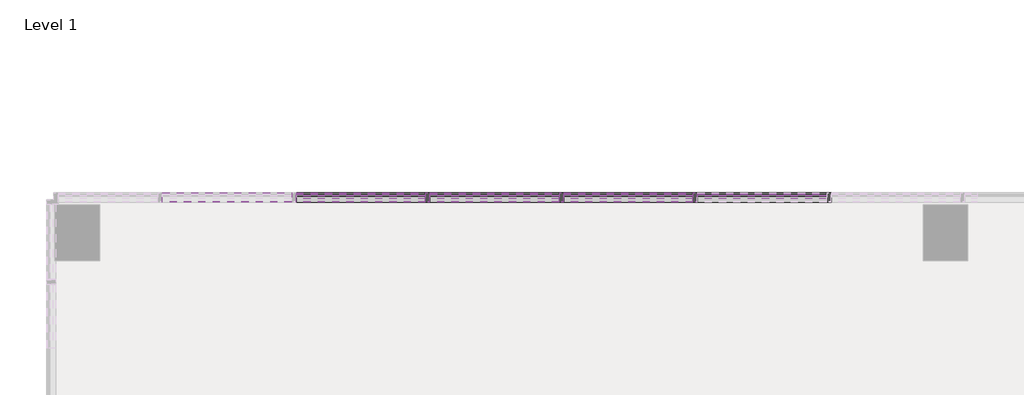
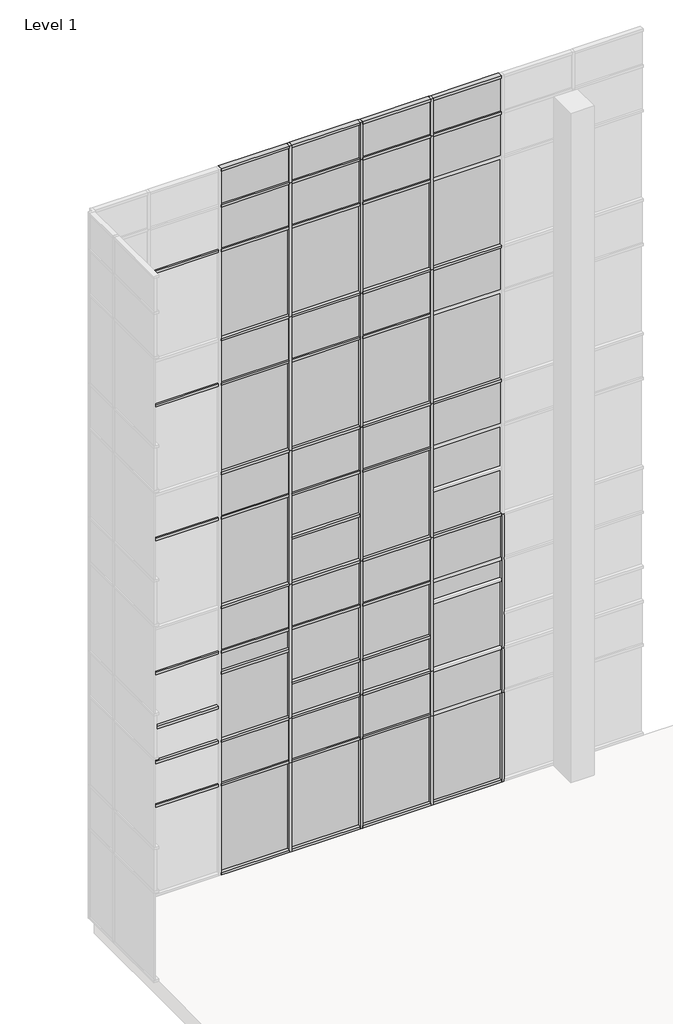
# One storey, part 11 of 23: 77 members, 50 plates.
"""IFC4 building model written with IfcOpenShell, lengths in millimetres."""

from ifc_helpers import new_model, si_unit, origin, place, context, project, spatial, transform, mapped, element, save
from components import member_2b49869a, member_f92b8aa2, member_810865a4, member_f0fea5a5, member_6d5c3e5e, member_9764dd38, system_panel_glazed_14c75400, system_panel_glazed_7d142148, system_panel_glazed_725bf07f, system_panel_glazed_8331d6f5, system_panel_glazed_33b17147, system_panel_glazed_3ed5c639, system_panel_glazed_f9823347, system_panel_solid_5dfe6f83, system_panel_solid_e25e2004, system_panel_solid_b7551183

model = new_model("IFC4")

# Units and contexts
model_context = context("Model", 3, world=origin())
ifc_project = project(units=[si_unit("LENGTHUNIT", "METRE", prefix="MILLI")], contexts=[model_context])

# Site, building, storey
site = spatial("IfcSite", under=ifc_project)
building = spatial("IfcBuilding", under=site)
storey = spatial("IfcBuildingStorey", under=building, Name="Level 1", Elevation=0.0)

# Members
placement = place(None, origin())
member_shape = member_2b49869a(model_context)
element("IfcMember", 1, ObjectType="Rectangular Mullion : 2.5\" x 5\" rectangular", at=placement, inside=storey, context=model_context, shape_type="MappedRepresentation", body=[
    mapped(member_shape, transform((-59919.4623649, 10017.7896508, 2438.4), x_axis=(1.0, 0.0, 0.0), y_axis=(0.0, -1.0, 0.0), z_axis=(0.0, 0.0, -1.0))),
])
element("IfcMember", 2, ObjectType="Rectangular Mullion : 2.5\" x 5\" rectangular", at=placement, inside=storey, context=model_context, shape_type="MappedRepresentation", body=[
    mapped(member_shape, transform((-61748.2623649, 10017.7896508, 2438.4), x_axis=(1.0, 0.0, 0.0), y_axis=(0.0, -1.0, 0.0), z_axis=(0.0, 0.0, -1.0))),
])
element("IfcMember", 3, ObjectType="Rectangular Mullion : 2.5\" x 5\" rectangular", at=placement, inside=storey, context=model_context, shape_type="MappedRepresentation", body=[
    mapped(member_shape, transform((-63577.0623649, 10017.7896508, 2438.4), x_axis=(1.0, 0.0, 0.0), y_axis=(0.0, -1.0, 0.0), z_axis=(0.0, 0.0, -1.0))),
])
element("IfcMember", 4, ObjectType="Rectangular Mullion : 2.5\" x 5\" rectangular", at=placement, inside=storey, context=model_context, shape_type="MappedRepresentation", body=[
    mapped(member_shape, transform((-58090.6623649, 10017.7896508, 2438.4), x_axis=(1.0, 0.0, 0.0), y_axis=(0.0, -1.0, 0.0), z_axis=(0.0, 0.0, -1.0))),
])
member_2_shape = member_f92b8aa2(model_context)
element("IfcMember", 5, ObjectType="Rectangular Mullion : 2.5\" x 5\" rectangular", at=placement, inside=storey, context=model_context, shape_type="MappedRepresentation", body=[
    mapped(member_2_shape, transform((-59919.4623649, 10017.7896508, 18288.0), x_axis=(1.0, 0.0, 0.0), y_axis=(0.0, -1.0, 0.0), z_axis=(0.0, 0.0, -1.0))),
])
element("IfcMember", 6, ObjectType="Rectangular Mullion : 2.5\" x 5\" rectangular", at=placement, inside=storey, context=model_context, shape_type="MappedRepresentation", body=[
    mapped(member_2_shape, transform((-61748.2623649, 10017.7896508, 18288.0), x_axis=(1.0, 0.0, 0.0), y_axis=(0.0, -1.0, 0.0), z_axis=(0.0, 0.0, -1.0))),
])
element("IfcMember", 7, ObjectType="Rectangular Mullion : 2.5\" x 5\" rectangular", at=placement, inside=storey, context=model_context, shape_type="MappedRepresentation", body=[
    mapped(member_2_shape, transform((-63577.0623649, 10017.7896508, 18288.0), x_axis=(1.0, 0.0, 0.0), y_axis=(0.0, -1.0, 0.0), z_axis=(0.0, 0.0, -1.0))),
])
member_3_shape = member_810865a4(model_context)
element("IfcMember", 8, ObjectType="Rectangular Mullion : 2.5\" x 5\" rectangular", at=placement, inside=storey, context=model_context, shape_type="MappedRepresentation", body=[
    mapped(member_3_shape, transform((-58090.6623649, 10017.7896508, 3657.6), x_axis=(1.0, 0.0, 0.0), y_axis=(0.0, -1.0, 0.0), z_axis=(0.0, 0.0, -1.0))),
])
element("IfcMember", 9, ObjectType="Rectangular Mullion : 2.5\" x 5\" rectangular", at=placement, inside=storey, context=model_context, shape_type="MappedRepresentation", body=[
    mapped(member_3_shape, transform((-59919.4623649, 10017.7896508, 14630.4), x_axis=(1.0, 0.0, 0.0), y_axis=(0.0, -1.0, 0.0), z_axis=(0.0, 0.0, -1.0))),
])
element("IfcMember", 10, ObjectType="Rectangular Mullion : 2.5\" x 5\" rectangular", at=placement, inside=storey, context=model_context, shape_type="MappedRepresentation", body=[
    mapped(member_3_shape, transform((-59919.4623649, 10017.7896508, 10972.8), x_axis=(1.0, 0.0, 0.0), y_axis=(0.0, -1.0, 0.0), z_axis=(0.0, 0.0, -1.0))),
])
element("IfcMember", 11, ObjectType="Rectangular Mullion : 2.5\" x 5\" rectangular", at=placement, inside=storey, context=model_context, shape_type="MappedRepresentation", body=[
    mapped(member_3_shape, transform((-59919.4623649, 10017.7896508, 7315.2), x_axis=(1.0, 0.0, 0.0), y_axis=(0.0, -1.0, 0.0), z_axis=(0.0, 0.0, -1.0))),
])
element("IfcMember", 12, ObjectType="Rectangular Mullion : 2.5\" x 5\" rectangular", at=placement, inside=storey, context=model_context, shape_type="MappedRepresentation", body=[
    mapped(member_3_shape, transform((-59919.4623649, 10017.7896508, 3657.6), x_axis=(1.0, 0.0, 0.0), y_axis=(0.0, -1.0, 0.0), z_axis=(0.0, 0.0, -1.0))),
])
element("IfcMember", 13, ObjectType="Rectangular Mullion : 2.5\" x 5\" rectangular", at=placement, inside=storey, context=model_context, shape_type="MappedRepresentation", body=[
    mapped(member_3_shape, transform((-61748.2623649, 10017.7896508, 14630.4), x_axis=(1.0, 0.0, 0.0), y_axis=(0.0, -1.0, 0.0), z_axis=(0.0, 0.0, -1.0))),
])
element("IfcMember", 14, ObjectType="Rectangular Mullion : 2.5\" x 5\" rectangular", at=placement, inside=storey, context=model_context, shape_type="MappedRepresentation", body=[
    mapped(member_3_shape, transform((-61748.2623649, 10017.7896508, 10972.8), x_axis=(1.0, 0.0, 0.0), y_axis=(0.0, -1.0, 0.0), z_axis=(0.0, 0.0, -1.0))),
])
element("IfcMember", 15, ObjectType="Rectangular Mullion : 2.5\" x 5\" rectangular", at=placement, inside=storey, context=model_context, shape_type="MappedRepresentation", body=[
    mapped(member_3_shape, transform((-61748.2623649, 10017.7896508, 7315.2), x_axis=(1.0, 0.0, 0.0), y_axis=(0.0, -1.0, 0.0), z_axis=(0.0, 0.0, -1.0))),
])
element("IfcMember", 16, ObjectType="Rectangular Mullion : 2.5\" x 5\" rectangular", at=placement, inside=storey, context=model_context, shape_type="MappedRepresentation", body=[
    mapped(member_3_shape, transform((-61748.2623649, 10017.7896508, 3657.6), x_axis=(1.0, 0.0, 0.0), y_axis=(0.0, -1.0, 0.0), z_axis=(0.0, 0.0, -1.0))),
])
element("IfcMember", 17, ObjectType="Rectangular Mullion : 2.5\" x 5\" rectangular", at=placement, inside=storey, context=model_context, shape_type="MappedRepresentation", body=[
    mapped(member_3_shape, transform((-63577.0623649, 10017.7896508, 14630.4), x_axis=(1.0, 0.0, 0.0), y_axis=(0.0, -1.0, 0.0), z_axis=(0.0, 0.0, -1.0))),
])
element("IfcMember", 18, ObjectType="Rectangular Mullion : 2.5\" x 5\" rectangular", at=placement, inside=storey, context=model_context, shape_type="MappedRepresentation", body=[
    mapped(member_3_shape, transform((-63577.0623649, 10017.7896508, 10972.8), x_axis=(1.0, 0.0, 0.0), y_axis=(0.0, -1.0, 0.0), z_axis=(0.0, 0.0, -1.0))),
])
element("IfcMember", 19, ObjectType="Rectangular Mullion : 2.5\" x 5\" rectangular", at=placement, inside=storey, context=model_context, shape_type="MappedRepresentation", body=[
    mapped(member_3_shape, transform((-63577.0623649, 10017.7896508, 7315.2), x_axis=(1.0, 0.0, 0.0), y_axis=(0.0, -1.0, 0.0), z_axis=(0.0, 0.0, -1.0))),
])
element("IfcMember", 20, ObjectType="Rectangular Mullion : 2.5\" x 5\" rectangular", at=placement, inside=storey, context=model_context, shape_type="MappedRepresentation", body=[
    mapped(member_3_shape, transform((-63577.0623649, 10017.7896508, 3657.6), x_axis=(1.0, 0.0, 0.0), y_axis=(0.0, -1.0, 0.0), z_axis=(0.0, 0.0, -1.0))),
])
member_4_shape = member_f0fea5a5(model_context)
element("IfcMember", 21, ObjectType="Rectangular Mullion : 2.5\" x 5\" rectangular", at=placement, inside=storey, context=model_context, shape_type="MappedRepresentation", body=[
    mapped(member_4_shape, transform((-61748.2623649, 10017.7896508, 0.0), x_axis=(1.0, 0.0, 0.0), y_axis=(0.0, -1.0, 0.0), z_axis=(0.0, 0.0, -1.0))),
])
element("IfcMember", 22, ObjectType="Rectangular Mullion : 2.5\" x 5\" rectangular", at=placement, inside=storey, context=model_context, shape_type="MappedRepresentation", body=[
    mapped(member_4_shape, transform((-63577.0623649, 10017.7896508, 0.0), x_axis=(1.0, 0.0, 0.0), y_axis=(0.0, -1.0, 0.0), z_axis=(0.0, 0.0, -1.0))),
])
element("IfcMember", 23, ObjectType="Rectangular Mullion : 2.5\" x 5\" rectangular", at=placement, inside=storey, context=model_context, shape_type="MappedRepresentation", body=[
    mapped(member_4_shape, transform((-59919.4623649, 10017.7896508, 0.0), x_axis=(1.0, 0.0, 0.0), y_axis=(0.0, -1.0, 0.0), z_axis=(0.0, 0.0, -1.0))),
])
element("IfcMember", 24, ObjectType="Rectangular Mullion : 2.5\" x 5\" rectangular", at=placement, inside=storey, context=model_context, shape_type="MappedRepresentation", body=[
    mapped(member_4_shape, transform((-58090.6623649, 10017.7896508, 0.0), x_axis=(1.0, 0.0, 0.0), y_axis=(0.0, -1.0, 0.0), z_axis=(0.0, 0.0, -1.0))),
])
member_5_shape = member_6d5c3e5e(model_context)
element("IfcMember", 25, ObjectType="Rectangular Mullion : 2.5\" x 5\" rectangular", at=placement, inside=storey, context=model_context, shape_type="MappedRepresentation", body=[
    mapped(member_5_shape, transform((-58122.4123649, 10017.7896508, 19304.0), x_axis=(0.0, 0.0, 1.0), y_axis=(0.0, -1.0, 0.0), z_axis=(1.0, 0.0, 0.0))),
])
element("IfcMember", 26, ObjectType="Rectangular Mullion : 2.5\" x 5\" rectangular", at=placement, inside=storey, context=model_context, shape_type="MappedRepresentation", body=[
    mapped(member_5_shape, transform((-59951.2123649, 10017.7896508, 19304.0), x_axis=(0.0, 0.0, 1.0), y_axis=(0.0, -1.0, 0.0), z_axis=(1.0, 0.0, 0.0))),
])
element("IfcMember", 27, ObjectType="Rectangular Mullion : 2.5\" x 5\" rectangular", at=placement, inside=storey, context=model_context, shape_type="MappedRepresentation", body=[
    mapped(member_5_shape, transform((-61780.0123649, 10017.7896508, 19304.0), x_axis=(0.0, 0.0, 1.0), y_axis=(0.0, -1.0, 0.0), z_axis=(1.0, 0.0, 0.0))),
])
element("IfcMember", 28, ObjectType="Rectangular Mullion : 2.5\" x 5\" rectangular", at=placement, inside=storey, context=model_context, shape_type="MappedRepresentation", body=[
    mapped(member_5_shape, transform((-63608.8123649, 10017.7896508, 19304.0), x_axis=(0.0, 0.0, 1.0), y_axis=(0.0, -1.0, 0.0), z_axis=(1.0, 0.0, 0.0))),
])
member_6_shape = member_9764dd38(model_context)
element("IfcMember", 29, ObjectType="Rectangular Mullion : 2.5\" x 5\" rectangular", at=placement, inside=storey, context=model_context, shape_type="MappedRepresentation", body=[
    mapped(member_6_shape, transform((-59951.2123649, 10017.7896508, 17068.8), x_axis=(0.0, 0.0, 1.0), y_axis=(0.0, -1.0, 0.0), z_axis=(1.0, 0.0, 0.0))),
])
element("IfcMember", 30, ObjectType="Rectangular Mullion : 2.5\" x 5\" rectangular", at=placement, inside=storey, context=model_context, shape_type="MappedRepresentation", body=[
    mapped(member_6_shape, transform((-61780.0123649, 10017.7896508, 17068.8), x_axis=(0.0, 0.0, 1.0), y_axis=(0.0, -1.0, 0.0), z_axis=(1.0, 0.0, 0.0))),
])
element("IfcMember", 31, ObjectType="Rectangular Mullion : 2.5\" x 5\" rectangular", at=placement, inside=storey, context=model_context, shape_type="MappedRepresentation", body=[
    mapped(member_6_shape, transform((-63608.8123649, 10017.7896508, 17068.8), x_axis=(0.0, 0.0, 1.0), y_axis=(0.0, -1.0, 0.0), z_axis=(1.0, 0.0, 0.0))),
])
element("IfcMember", 32, ObjectType="Rectangular Mullion : 2.5\" x 5\" rectangular", at=placement, inside=storey, context=model_context, shape_type="MappedRepresentation", body=[
    mapped(member_6_shape, transform((-65437.6123649, 10017.7896508, 17068.8), x_axis=(0.0, 0.0, 1.0), y_axis=(0.0, -1.0, 0.0), z_axis=(1.0, 0.0, 0.0))),
])
element("IfcMember", 33, ObjectType="Rectangular Mullion : 2.5\" x 5\" rectangular", at=placement, inside=storey, context=model_context, shape_type="MappedRepresentation", body=[
    mapped(member_6_shape, transform((-59951.2123649, 10017.7896508, 13411.2), x_axis=(0.0, 0.0, 1.0), y_axis=(0.0, -1.0, 0.0), z_axis=(1.0, 0.0, 0.0))),
])
element("IfcMember", 34, ObjectType="Rectangular Mullion : 2.5\" x 5\" rectangular", at=placement, inside=storey, context=model_context, shape_type="MappedRepresentation", body=[
    mapped(member_6_shape, transform((-61780.0123649, 10017.7896508, 13411.2), x_axis=(0.0, 0.0, 1.0), y_axis=(0.0, -1.0, 0.0), z_axis=(1.0, 0.0, 0.0))),
])
element("IfcMember", 35, ObjectType="Rectangular Mullion : 2.5\" x 5\" rectangular", at=placement, inside=storey, context=model_context, shape_type="MappedRepresentation", body=[
    mapped(member_6_shape, transform((-63608.8123649, 10017.7896508, 13411.2), x_axis=(0.0, 0.0, 1.0), y_axis=(0.0, -1.0, 0.0), z_axis=(1.0, 0.0, 0.0))),
])
element("IfcMember", 36, ObjectType="Rectangular Mullion : 2.5\" x 5\" rectangular", at=placement, inside=storey, context=model_context, shape_type="MappedRepresentation", body=[
    mapped(member_6_shape, transform((-65437.6123649, 10017.7896508, 13411.2), x_axis=(0.0, 0.0, 1.0), y_axis=(0.0, -1.0, 0.0), z_axis=(1.0, 0.0, 0.0))),
])
element("IfcMember", 37, ObjectType="Rectangular Mullion : 2.5\" x 5\" rectangular", at=placement, inside=storey, context=model_context, shape_type="MappedRepresentation", body=[
    mapped(member_6_shape, transform((-59951.2123649, 10017.7896508, 9753.6), x_axis=(0.0, 0.0, 1.0), y_axis=(0.0, -1.0, 0.0), z_axis=(1.0, 0.0, 0.0))),
])
element("IfcMember", 38, ObjectType="Rectangular Mullion : 2.5\" x 5\" rectangular", at=placement, inside=storey, context=model_context, shape_type="MappedRepresentation", body=[
    mapped(member_6_shape, transform((-61780.0123649, 10017.7896508, 9753.6), x_axis=(0.0, 0.0, 1.0), y_axis=(0.0, -1.0, 0.0), z_axis=(1.0, 0.0, 0.0))),
])
element("IfcMember", 39, ObjectType="Rectangular Mullion : 2.5\" x 5\" rectangular", at=placement, inside=storey, context=model_context, shape_type="MappedRepresentation", body=[
    mapped(member_6_shape, transform((-63608.8123649, 10017.7896508, 9753.6), x_axis=(0.0, 0.0, 1.0), y_axis=(0.0, -1.0, 0.0), z_axis=(1.0, 0.0, 0.0))),
])
element("IfcMember", 40, ObjectType="Rectangular Mullion : 2.5\" x 5\" rectangular", at=placement, inside=storey, context=model_context, shape_type="MappedRepresentation", body=[
    mapped(member_6_shape, transform((-65437.6123649, 10017.7896508, 9753.6), x_axis=(0.0, 0.0, 1.0), y_axis=(0.0, -1.0, 0.0), z_axis=(1.0, 0.0, 0.0))),
])
element("IfcMember", 41, ObjectType="Rectangular Mullion : 2.5\" x 5\" rectangular", at=placement, inside=storey, context=model_context, shape_type="MappedRepresentation", body=[
    mapped(member_6_shape, transform((-59951.2123649, 10017.7896508, 6096.0), x_axis=(0.0, 0.0, 1.0), y_axis=(0.0, -1.0, 0.0), z_axis=(1.0, 0.0, 0.0))),
])
element("IfcMember", 42, ObjectType="Rectangular Mullion : 2.5\" x 5\" rectangular", at=placement, inside=storey, context=model_context, shape_type="MappedRepresentation", body=[
    mapped(member_6_shape, transform((-61780.0123649, 10017.7896508, 6096.0), x_axis=(0.0, 0.0, 1.0), y_axis=(0.0, -1.0, 0.0), z_axis=(1.0, 0.0, 0.0))),
])
element("IfcMember", 43, ObjectType="Rectangular Mullion : 2.5\" x 5\" rectangular", at=placement, inside=storey, context=model_context, shape_type="MappedRepresentation", body=[
    mapped(member_6_shape, transform((-63608.8123649, 10017.7896508, 6096.0), x_axis=(0.0, 0.0, 1.0), y_axis=(0.0, -1.0, 0.0), z_axis=(1.0, 0.0, 0.0))),
])
element("IfcMember", 44, ObjectType="Rectangular Mullion : 2.5\" x 5\" rectangular", at=placement, inside=storey, context=model_context, shape_type="MappedRepresentation", body=[
    mapped(member_6_shape, transform((-65437.6123649, 10017.7896508, 6096.0), x_axis=(0.0, 0.0, 1.0), y_axis=(0.0, -1.0, 0.0), z_axis=(1.0, 0.0, 0.0))),
])
element("IfcMember", 45, ObjectType="Rectangular Mullion : 2.5\" x 5\" rectangular", at=placement, inside=storey, context=model_context, shape_type="MappedRepresentation", body=[
    mapped(member_6_shape, transform((-59951.2123649, 10017.7896508, 2470.15), x_axis=(0.0, 0.0, 1.0), y_axis=(0.0, -1.0, 0.0), z_axis=(1.0, 0.0, 0.0))),
])
element("IfcMember", 46, ObjectType="Rectangular Mullion : 2.5\" x 5\" rectangular", at=placement, inside=storey, context=model_context, shape_type="MappedRepresentation", body=[
    mapped(member_6_shape, transform((-61780.0123649, 10017.7896508, 2470.15), x_axis=(0.0, 0.0, 1.0), y_axis=(0.0, -1.0, 0.0), z_axis=(1.0, 0.0, 0.0))),
])
element("IfcMember", 47, ObjectType="Rectangular Mullion : 2.5\" x 5\" rectangular", at=placement, inside=storey, context=model_context, shape_type="MappedRepresentation", body=[
    mapped(member_6_shape, transform((-63608.8123649, 10017.7896508, 2470.15), x_axis=(0.0, 0.0, 1.0), y_axis=(0.0, -1.0, 0.0), z_axis=(1.0, 0.0, 0.0))),
])
element("IfcMember", 48, ObjectType="Rectangular Mullion : 2.5\" x 5\" rectangular", at=placement, inside=storey, context=model_context, shape_type="MappedRepresentation", body=[
    mapped(member_6_shape, transform((-65437.6123649, 10017.7896508, 2470.15), x_axis=(0.0, 0.0, 1.0), y_axis=(0.0, -1.0, 0.0), z_axis=(1.0, 0.0, 0.0))),
])
element("IfcMember", 49, ObjectType="Rectangular Mullion : 2.5\" x 5\" rectangular", at=placement, inside=storey, context=model_context, shape_type="MappedRepresentation", body=[
    mapped(member_6_shape, transform((-65437.6123649, 10017.7896508, 4603.75), x_axis=(0.0, 0.0, 1.0), y_axis=(0.0, -1.0, 0.0), z_axis=(1.0, 0.0, 0.0))),
])
element("IfcMember", 50, ObjectType="Rectangular Mullion : 2.5\" x 5\" rectangular", at=placement, inside=storey, context=model_context, shape_type="MappedRepresentation", body=[
    mapped(member_6_shape, transform((-61780.0123649, 10017.7896508, 4603.75), x_axis=(0.0, 0.0, 1.0), y_axis=(0.0, -1.0, 0.0), z_axis=(1.0, 0.0, 0.0))),
])
element("IfcMember", 51, ObjectType="Rectangular Mullion : 2.5\" x 5\" rectangular", at=placement, inside=storey, context=model_context, shape_type="MappedRepresentation", body=[
    mapped(member_6_shape, transform((-63608.8123649, 10017.7896508, 5518.15), x_axis=(0.0, 0.0, 1.0), y_axis=(0.0, -1.0, 0.0), z_axis=(1.0, 0.0, 0.0))),
])
element("IfcMember", 52, ObjectType="Rectangular Mullion : 2.5\" x 5\" rectangular", at=placement, inside=storey, context=model_context, shape_type="MappedRepresentation", body=[
    mapped(member_6_shape, transform((-61780.0123649, 10017.7896508, 8566.15), x_axis=(0.0, 0.0, 1.0), y_axis=(0.0, -1.0, 0.0), z_axis=(1.0, 0.0, 0.0))),
])
element("IfcMember", 53, ObjectType="Rectangular Mullion : 2.5\" x 5\" rectangular", at=placement, inside=storey, context=model_context, shape_type="MappedRepresentation", body=[
    mapped(member_6_shape, transform((-59951.2123649, 10017.7896508, 4603.75), x_axis=(0.0, 0.0, 1.0), y_axis=(0.0, -1.0, 0.0), z_axis=(1.0, 0.0, 0.0))),
])
element("IfcMember", 54, ObjectType="Rectangular Mullion : 2.5\" x 5\" rectangular", at=placement, inside=storey, context=model_context, shape_type="MappedRepresentation", body=[
    mapped(member_5_shape, transform((-59887.7123649, 10017.7896508, 0.0), x_axis=(0.0, 0.0, -1.0), y_axis=(0.0, -1.0, 0.0), z_axis=(-1.0, 0.0, 0.0))),
])
element("IfcMember", 55, ObjectType="Rectangular Mullion : 2.5\" x 5\" rectangular", at=placement, inside=storey, context=model_context, shape_type="MappedRepresentation", body=[
    mapped(member_5_shape, transform((-61716.5123649, 10017.7896508, 0.0), x_axis=(0.0, 0.0, -1.0), y_axis=(0.0, -1.0, 0.0), z_axis=(-1.0, 0.0, 0.0))),
])
element("IfcMember", 56, ObjectType="Rectangular Mullion : 2.5\" x 5\" rectangular", at=placement, inside=storey, context=model_context, shape_type="MappedRepresentation", body=[
    mapped(member_5_shape, transform((-63545.3123649, 10017.7896508, 0.0), x_axis=(0.0, 0.0, -1.0), y_axis=(0.0, -1.0, 0.0), z_axis=(-1.0, 0.0, 0.0))),
])
element("IfcMember", 57, ObjectType="Rectangular Mullion : 2.5\" x 5\" rectangular", at=placement, inside=storey, context=model_context, shape_type="MappedRepresentation", body=[
    mapped(member_5_shape, transform((-65374.1123649, 10017.7896508, 0.0), x_axis=(0.0, 0.0, -1.0), y_axis=(0.0, -1.0, 0.0), z_axis=(-1.0, 0.0, 0.0))),
])
element("IfcMember", 58, ObjectType="Rectangular Mullion : 2.5\" x 5\" rectangular", at=placement, inside=storey, context=model_context, shape_type="MappedRepresentation", body=[
    mapped(member_6_shape, transform((-58122.4123649, 10017.7896508, 10972.8), x_axis=(0.0, 0.0, 1.0), y_axis=(0.0, -1.0, 0.0), z_axis=(1.0, 0.0, 0.0))),
])
element("IfcMember", 59, ObjectType="Rectangular Mullion : 2.5\" x 5\" rectangular", at=placement, inside=storey, context=model_context, shape_type="MappedRepresentation", body=[
    mapped(member_6_shape, transform((-59951.2123649, 10017.7896508, 10972.8), x_axis=(0.0, 0.0, 1.0), y_axis=(0.0, -1.0, 0.0), z_axis=(1.0, 0.0, 0.0))),
])
element("IfcMember", 60, ObjectType="Rectangular Mullion : 2.5\" x 5\" rectangular", at=placement, inside=storey, context=model_context, shape_type="MappedRepresentation", body=[
    mapped(member_6_shape, transform((-61780.0123649, 10017.7896508, 10972.8), x_axis=(0.0, 0.0, 1.0), y_axis=(0.0, -1.0, 0.0), z_axis=(1.0, 0.0, 0.0))),
])
element("IfcMember", 61, ObjectType="Rectangular Mullion : 2.5\" x 5\" rectangular", at=placement, inside=storey, context=model_context, shape_type="MappedRepresentation", body=[
    mapped(member_6_shape, transform((-63608.8123649, 10017.7896508, 10972.8), x_axis=(0.0, 0.0, 1.0), y_axis=(0.0, -1.0, 0.0), z_axis=(1.0, 0.0, 0.0))),
])
element("IfcMember", 62, ObjectType="Rectangular Mullion : 2.5\" x 5\" rectangular", at=placement, inside=storey, context=model_context, shape_type="MappedRepresentation", body=[
    mapped(member_6_shape, transform((-58122.4123649, 10017.7896508, 7315.2), x_axis=(0.0, 0.0, 1.0), y_axis=(0.0, -1.0, 0.0), z_axis=(1.0, 0.0, 0.0))),
])
element("IfcMember", 63, ObjectType="Rectangular Mullion : 2.5\" x 5\" rectangular", at=placement, inside=storey, context=model_context, shape_type="MappedRepresentation", body=[
    mapped(member_6_shape, transform((-59951.2123649, 10017.7896508, 7315.2), x_axis=(0.0, 0.0, 1.0), y_axis=(0.0, -1.0, 0.0), z_axis=(1.0, 0.0, 0.0))),
])
element("IfcMember", 64, ObjectType="Rectangular Mullion : 2.5\" x 5\" rectangular", at=placement, inside=storey, context=model_context, shape_type="MappedRepresentation", body=[
    mapped(member_6_shape, transform((-61780.0123649, 10017.7896508, 7315.2), x_axis=(0.0, 0.0, 1.0), y_axis=(0.0, -1.0, 0.0), z_axis=(1.0, 0.0, 0.0))),
])
element("IfcMember", 65, ObjectType="Rectangular Mullion : 2.5\" x 5\" rectangular", at=placement, inside=storey, context=model_context, shape_type="MappedRepresentation", body=[
    mapped(member_6_shape, transform((-63608.8123649, 10017.7896508, 7315.2), x_axis=(0.0, 0.0, 1.0), y_axis=(0.0, -1.0, 0.0), z_axis=(1.0, 0.0, 0.0))),
])
element("IfcMember", 66, ObjectType="Rectangular Mullion : 2.5\" x 5\" rectangular", at=placement, inside=storey, context=model_context, shape_type="MappedRepresentation", body=[
    mapped(member_6_shape, transform((-59951.2123649, 10017.7896508, 18288.0), x_axis=(0.0, 0.0, 1.0), y_axis=(0.0, -1.0, 0.0), z_axis=(1.0, 0.0, 0.0))),
])
element("IfcMember", 67, ObjectType="Rectangular Mullion : 2.5\" x 5\" rectangular", at=placement, inside=storey, context=model_context, shape_type="MappedRepresentation", body=[
    mapped(member_6_shape, transform((-61780.0123649, 10017.7896508, 18288.0), x_axis=(0.0, 0.0, 1.0), y_axis=(0.0, -1.0, 0.0), z_axis=(1.0, 0.0, 0.0))),
])
element("IfcMember", 68, ObjectType="Rectangular Mullion : 2.5\" x 5\" rectangular", at=placement, inside=storey, context=model_context, shape_type="MappedRepresentation", body=[
    mapped(member_6_shape, transform((-63608.8123649, 10017.7896508, 18288.0), x_axis=(0.0, 0.0, 1.0), y_axis=(0.0, -1.0, 0.0), z_axis=(1.0, 0.0, 0.0))),
])
element("IfcMember", 69, ObjectType="Rectangular Mullion : 2.5\" x 5\" rectangular", at=placement, inside=storey, context=model_context, shape_type="MappedRepresentation", body=[
    mapped(member_6_shape, transform((-58122.4123649, 10017.7896508, 18288.0), x_axis=(0.0, 0.0, 1.0), y_axis=(0.0, -1.0, 0.0), z_axis=(1.0, 0.0, 0.0))),
])
element("IfcMember", 70, ObjectType="Rectangular Mullion : 2.5\" x 5\" rectangular", at=placement, inside=storey, context=model_context, shape_type="MappedRepresentation", body=[
    mapped(member_6_shape, transform((-58122.4123649, 10017.7896508, 14630.4), x_axis=(0.0, 0.0, 1.0), y_axis=(0.0, -1.0, 0.0), z_axis=(1.0, 0.0, 0.0))),
])
element("IfcMember", 71, ObjectType="Rectangular Mullion : 2.5\" x 5\" rectangular", at=placement, inside=storey, context=model_context, shape_type="MappedRepresentation", body=[
    mapped(member_6_shape, transform((-59951.2123649, 10017.7896508, 14630.4), x_axis=(0.0, 0.0, 1.0), y_axis=(0.0, -1.0, 0.0), z_axis=(1.0, 0.0, 0.0))),
])
element("IfcMember", 72, ObjectType="Rectangular Mullion : 2.5\" x 5\" rectangular", at=placement, inside=storey, context=model_context, shape_type="MappedRepresentation", body=[
    mapped(member_6_shape, transform((-61780.0123649, 10017.7896508, 14630.4), x_axis=(0.0, 0.0, 1.0), y_axis=(0.0, -1.0, 0.0), z_axis=(1.0, 0.0, 0.0))),
])
element("IfcMember", 73, ObjectType="Rectangular Mullion : 2.5\" x 5\" rectangular", at=placement, inside=storey, context=model_context, shape_type="MappedRepresentation", body=[
    mapped(member_6_shape, transform((-63608.8123649, 10017.7896508, 14630.4), x_axis=(0.0, 0.0, 1.0), y_axis=(0.0, -1.0, 0.0), z_axis=(1.0, 0.0, 0.0))),
])
element("IfcMember", 74, ObjectType="Rectangular Mullion : 2.5\" x 5\" rectangular", at=placement, inside=storey, context=model_context, shape_type="MappedRepresentation", body=[
    mapped(member_6_shape, transform((-65437.6123649, 10017.7896508, 3657.6), x_axis=(0.0, 0.0, 1.0), y_axis=(0.0, -1.0, 0.0), z_axis=(1.0, 0.0, 0.0))),
])
element("IfcMember", 75, ObjectType="Rectangular Mullion : 2.5\" x 5\" rectangular", at=placement, inside=storey, context=model_context, shape_type="MappedRepresentation", body=[
    mapped(member_6_shape, transform((-61780.0123649, 10017.7896508, 3657.6), x_axis=(0.0, 0.0, 1.0), y_axis=(0.0, -1.0, 0.0), z_axis=(1.0, 0.0, 0.0))),
])
element("IfcMember", 76, ObjectType="Rectangular Mullion : 2.5\" x 5\" rectangular", at=placement, inside=storey, context=model_context, shape_type="MappedRepresentation", body=[
    mapped(member_6_shape, transform((-59951.2123649, 10017.7896508, 3657.6), x_axis=(0.0, 0.0, 1.0), y_axis=(0.0, -1.0, 0.0), z_axis=(1.0, 0.0, 0.0))),
])
element("IfcMember", 77, ObjectType="Rectangular Mullion : 2.5\" x 5\" rectangular", at=placement, inside=storey, context=model_context, shape_type="MappedRepresentation", body=[
    mapped(member_6_shape, transform((-63608.8123649, 10017.7896508, 3657.6), x_axis=(0.0, 0.0, 1.0), y_axis=(0.0, -1.0, 0.0), z_axis=(1.0, 0.0, 0.0))),
])

# Plates
system_panel_glazed_shape = system_panel_glazed_14c75400(model_context)
element("IfcPlate", 78, ObjectType="System Panel : Glazed", at=placement, inside=storey, context=model_context, shape_type="MappedRepresentation", body=[
    mapped(system_panel_glazed_shape, transform((-59005.0623649, 10017.7896508, 14662.15), x_axis=(1.0, 0.0, 0.0), y_axis=(0.0, 1.0, 0.0), z_axis=(0.0, 0.0, 1.0))),
])
element("IfcPlate", 79, ObjectType="System Panel : Glazed", at=placement, inside=storey, context=model_context, shape_type="MappedRepresentation", body=[
    mapped(system_panel_glazed_shape, transform((-60833.8623649, 10017.7896508, 14662.15), x_axis=(1.0, 0.0, 0.0), y_axis=(0.0, 1.0, 0.0), z_axis=(0.0, 0.0, 1.0))),
])
element("IfcPlate", 80, ObjectType="System Panel : Glazed", at=placement, inside=storey, context=model_context, shape_type="MappedRepresentation", body=[
    mapped(system_panel_glazed_shape, transform((-62662.6623649, 10017.7896508, 14662.15), x_axis=(1.0, 0.0, 0.0), y_axis=(0.0, 1.0, 0.0), z_axis=(0.0, 0.0, 1.0))),
])
element("IfcPlate", 81, ObjectType="System Panel : Glazed", at=placement, inside=storey, context=model_context, shape_type="MappedRepresentation", body=[
    mapped(system_panel_glazed_shape, transform((-64491.4623649, 10017.7896508, 14662.15), x_axis=(1.0, 0.0, 0.0), y_axis=(0.0, 1.0, 0.0), z_axis=(0.0, 0.0, 1.0))),
])
element("IfcPlate", 82, ObjectType="System Panel : Glazed", at=placement, inside=storey, context=model_context, shape_type="MappedRepresentation", body=[
    mapped(system_panel_glazed_shape, transform((-59005.0623649, 10017.7896508, 11004.55), x_axis=(1.0, 0.0, 0.0), y_axis=(0.0, 1.0, 0.0), z_axis=(0.0, 0.0, 1.0))),
])
element("IfcPlate", 83, ObjectType="System Panel : Glazed", at=placement, inside=storey, context=model_context, shape_type="MappedRepresentation", body=[
    mapped(system_panel_glazed_shape, transform((-60833.8623649, 10017.7896508, 11004.55), x_axis=(1.0, 0.0, 0.0), y_axis=(0.0, 1.0, 0.0), z_axis=(0.0, 0.0, 1.0))),
])
element("IfcPlate", 84, ObjectType="System Panel : Glazed", at=placement, inside=storey, context=model_context, shape_type="MappedRepresentation", body=[
    mapped(system_panel_glazed_shape, transform((-62662.6623649, 10017.7896508, 11004.55), x_axis=(1.0, 0.0, 0.0), y_axis=(0.0, 1.0, 0.0), z_axis=(0.0, 0.0, 1.0))),
])
element("IfcPlate", 85, ObjectType="System Panel : Glazed", at=placement, inside=storey, context=model_context, shape_type="MappedRepresentation", body=[
    mapped(system_panel_glazed_shape, transform((-64491.4623649, 10017.7896508, 11004.55), x_axis=(1.0, 0.0, 0.0), y_axis=(0.0, 1.0, 0.0), z_axis=(0.0, 0.0, 1.0))),
])
element("IfcPlate", 86, ObjectType="System Panel : Glazed", at=placement, inside=storey, context=model_context, shape_type="MappedRepresentation", body=[
    mapped(system_panel_glazed_shape, transform((-60833.8623649, 10017.7896508, 7346.95), x_axis=(1.0, 0.0, 0.0), y_axis=(0.0, 1.0, 0.0), z_axis=(0.0, 0.0, 1.0))),
])
element("IfcPlate", 87, ObjectType="System Panel : Glazed", at=placement, inside=storey, context=model_context, shape_type="MappedRepresentation", body=[
    mapped(system_panel_glazed_shape, transform((-64491.4623649, 10017.7896508, 7346.95), x_axis=(1.0, 0.0, 0.0), y_axis=(0.0, 1.0, 0.0), z_axis=(0.0, 0.0, 1.0))),
])
element("IfcPlate", 88, ObjectType="System Panel : Glazed", at=placement, inside=storey, context=model_context, shape_type="MappedRepresentation", body=[
    mapped(system_panel_glazed_shape, transform((-59005.0623649, 10017.7896508, 63.5), x_axis=(1.0, 0.0, 0.0), y_axis=(0.0, 1.0, 0.0), z_axis=(0.0, 0.0, 1.0))),
])
element("IfcPlate", 89, ObjectType="System Panel : Glazed", at=placement, inside=storey, context=model_context, shape_type="MappedRepresentation", body=[
    mapped(system_panel_glazed_shape, transform((-60833.8623649, 10017.7896508, 63.5), x_axis=(1.0, 0.0, 0.0), y_axis=(0.0, 1.0, 0.0), z_axis=(0.0, 0.0, 1.0))),
])
element("IfcPlate", 90, ObjectType="System Panel : Glazed", at=placement, inside=storey, context=model_context, shape_type="MappedRepresentation", body=[
    mapped(system_panel_glazed_shape, transform((-62662.6623649, 10017.7896508, 63.5), x_axis=(1.0, 0.0, 0.0), y_axis=(0.0, 1.0, 0.0), z_axis=(0.0, 0.0, 1.0))),
])
element("IfcPlate", 91, ObjectType="System Panel : Glazed", at=placement, inside=storey, context=model_context, shape_type="MappedRepresentation", body=[
    mapped(system_panel_glazed_shape, transform((-64491.4623649, 10017.7896508, 63.5), x_axis=(1.0, 0.0, 0.0), y_axis=(0.0, 1.0, 0.0), z_axis=(0.0, 0.0, 1.0))),
])
system_panel_glazed_2_shape = system_panel_glazed_7d142148(model_context)
element("IfcPlate", 92, ObjectType="System Panel : Glazed", at=placement, inside=storey, context=model_context, shape_type="MappedRepresentation", body=[
    mapped(system_panel_glazed_2_shape, transform((-60833.8623649, 10017.7896508, 3689.35), x_axis=(1.0, 0.0, 0.0), y_axis=(0.0, 1.0, 0.0), z_axis=(0.0, 0.0, 1.0))),
])
element("IfcPlate", 93, ObjectType="System Panel : Glazed", at=placement, inside=storey, context=model_context, shape_type="MappedRepresentation", body=[
    mapped(system_panel_glazed_2_shape, transform((-62662.6623649, 10017.7896508, 3689.35), x_axis=(1.0, 0.0, 0.0), y_axis=(0.0, 1.0, 0.0), z_axis=(0.0, 0.0, 1.0))),
])
system_panel_glazed_3_shape = system_panel_glazed_725bf07f(model_context)
element("IfcPlate", 94, ObjectType="System Panel : Glazed", at=placement, inside=storey, context=model_context, shape_type="MappedRepresentation", body=[
    mapped(system_panel_glazed_3_shape, transform((-62662.6623649, 10017.7896508, 4635.5), x_axis=(1.0, 0.0, 0.0), y_axis=(0.0, 1.0, 0.0), z_axis=(0.0, 0.0, 1.0))),
])
element("IfcPlate", 95, ObjectType="System Panel : Glazed", at=placement, inside=storey, context=model_context, shape_type="MappedRepresentation", body=[
    mapped(system_panel_glazed_3_shape, transform((-60833.8623649, 10017.7896508, 4635.5), x_axis=(1.0, 0.0, 0.0), y_axis=(0.0, 1.0, 0.0), z_axis=(0.0, 0.0, 1.0))),
])
system_panel_glazed_4_shape = system_panel_glazed_8331d6f5(model_context)
element("IfcPlate", 96, ObjectType="System Panel : Glazed", at=placement, inside=storey, context=model_context, shape_type="MappedRepresentation", body=[
    mapped(system_panel_glazed_4_shape, transform((-59005.0623649, 10017.7896508, 3689.35), x_axis=(1.0, 0.0, 0.0), y_axis=(0.0, 1.0, 0.0), z_axis=(0.0, 0.0, 1.0))),
])
element("IfcPlate", 97, ObjectType="System Panel : Glazed", at=placement, inside=storey, context=model_context, shape_type="MappedRepresentation", body=[
    mapped(system_panel_glazed_4_shape, transform((-64491.4623649, 10017.7896508, 3689.35), x_axis=(1.0, 0.0, 0.0), y_axis=(0.0, 1.0, 0.0), z_axis=(0.0, 0.0, 1.0))),
])
system_panel_glazed_5_shape = system_panel_glazed_33b17147(model_context)
element("IfcPlate", 98, ObjectType="System Panel : Glazed", at=placement, inside=storey, context=model_context, shape_type="MappedRepresentation", body=[
    mapped(system_panel_glazed_5_shape, transform((-64491.4623649, 10017.7896508, 5549.9), x_axis=(1.0, 0.0, 0.0), y_axis=(0.0, 1.0, 0.0), z_axis=(0.0, 0.0, 1.0))),
])
element("IfcPlate", 99, ObjectType="System Panel : Glazed", at=placement, inside=storey, context=model_context, shape_type="MappedRepresentation", body=[
    mapped(system_panel_glazed_5_shape, transform((-59005.0623649, 10017.7896508, 5549.9), x_axis=(1.0, 0.0, 0.0), y_axis=(0.0, 1.0, 0.0), z_axis=(0.0, 0.0, 1.0))),
])
system_panel_glazed_6_shape = system_panel_glazed_3ed5c639(model_context)
element("IfcPlate", 100, ObjectType="System Panel : Glazed", at=placement, inside=storey, context=model_context, shape_type="MappedRepresentation", body=[
    mapped(system_panel_glazed_6_shape, transform((-59005.0623649, 10017.7896508, 7346.95), x_axis=(1.0, 0.0, 0.0), y_axis=(0.0, 1.0, 0.0), z_axis=(0.0, 0.0, 1.0))),
])
element("IfcPlate", 101, ObjectType="System Panel : Glazed", at=placement, inside=storey, context=model_context, shape_type="MappedRepresentation", body=[
    mapped(system_panel_glazed_6_shape, transform((-62662.6623649, 10017.7896508, 7346.95), x_axis=(1.0, 0.0, 0.0), y_axis=(0.0, 1.0, 0.0), z_axis=(0.0, 0.0, 1.0))),
])
system_panel_glazed_7_shape = system_panel_glazed_f9823347(model_context)
element("IfcPlate", 102, ObjectType="System Panel : Glazed", at=placement, inside=storey, context=model_context, shape_type="MappedRepresentation", body=[
    mapped(system_panel_glazed_7_shape, transform((-62662.6623649, 10017.7896508, 8597.9), x_axis=(1.0, 0.0, 0.0), y_axis=(0.0, 1.0, 0.0), z_axis=(0.0, 0.0, 1.0))),
])
element("IfcPlate", 103, ObjectType="System Panel : Glazed", at=placement, inside=storey, context=model_context, shape_type="MappedRepresentation", body=[
    mapped(system_panel_glazed_7_shape, transform((-59005.0623649, 10017.7896508, 8597.9), x_axis=(1.0, 0.0, 0.0), y_axis=(0.0, 1.0, 0.0), z_axis=(0.0, 0.0, 1.0))),
])
system_panel_solid_shape = system_panel_solid_5dfe6f83(model_context)
element("IfcPlate", 104, ObjectType="System Panel : Solid", at=placement, inside=storey, context=model_context, shape_type="MappedRepresentation", body=[
    mapped(system_panel_solid_shape, transform((-64491.4623649, 10017.7896508, 18319.75), x_axis=(1.0, 0.0, 0.0), y_axis=(0.0, 1.0, 0.0), z_axis=(0.0, 0.0, 1.0))),
])
element("IfcPlate", 105, ObjectType="System Panel : Solid", at=placement, inside=storey, context=model_context, shape_type="MappedRepresentation", body=[
    mapped(system_panel_solid_shape, transform((-62662.6623649, 10017.7896508, 18319.75), x_axis=(1.0, 0.0, 0.0), y_axis=(0.0, 1.0, 0.0), z_axis=(0.0, 0.0, 1.0))),
])
element("IfcPlate", 106, ObjectType="System Panel : Solid", at=placement, inside=storey, context=model_context, shape_type="MappedRepresentation", body=[
    mapped(system_panel_solid_shape, transform((-60833.8623649, 10017.7896508, 18319.75), x_axis=(1.0, 0.0, 0.0), y_axis=(0.0, 1.0, 0.0), z_axis=(0.0, 0.0, 1.0))),
])
element("IfcPlate", 107, ObjectType="System Panel : Solid", at=placement, inside=storey, context=model_context, shape_type="MappedRepresentation", body=[
    mapped(system_panel_solid_shape, transform((-59005.0623649, 10017.7896508, 18319.75), x_axis=(1.0, 0.0, 0.0), y_axis=(0.0, 1.0, 0.0), z_axis=(0.0, 0.0, 1.0))),
])
system_panel_solid_2_shape = system_panel_solid_e25e2004(model_context)
element("IfcPlate", 108, ObjectType="System Panel : Solid", at=placement, inside=storey, context=model_context, shape_type="MappedRepresentation", body=[
    mapped(system_panel_solid_2_shape, transform((-59005.0623649, 10017.7896508, 17100.55), x_axis=(1.0, 0.0, 0.0), y_axis=(0.0, 1.0, 0.0), z_axis=(0.0, 0.0, 1.0))),
])
element("IfcPlate", 109, ObjectType="System Panel : Solid", at=placement, inside=storey, context=model_context, shape_type="MappedRepresentation", body=[
    mapped(system_panel_solid_2_shape, transform((-60833.8623649, 10017.7896508, 17100.55), x_axis=(1.0, 0.0, 0.0), y_axis=(0.0, 1.0, 0.0), z_axis=(0.0, 0.0, 1.0))),
])
element("IfcPlate", 110, ObjectType="System Panel : Solid", at=placement, inside=storey, context=model_context, shape_type="MappedRepresentation", body=[
    mapped(system_panel_solid_2_shape, transform((-62662.6623649, 10017.7896508, 17100.55), x_axis=(1.0, 0.0, 0.0), y_axis=(0.0, 1.0, 0.0), z_axis=(0.0, 0.0, 1.0))),
])
element("IfcPlate", 111, ObjectType="System Panel : Solid", at=placement, inside=storey, context=model_context, shape_type="MappedRepresentation", body=[
    mapped(system_panel_solid_2_shape, transform((-64491.4623649, 10017.7896508, 17100.55), x_axis=(1.0, 0.0, 0.0), y_axis=(0.0, 1.0, 0.0), z_axis=(0.0, 0.0, 1.0))),
])
element("IfcPlate", 112, ObjectType="System Panel : Solid", at=placement, inside=storey, context=model_context, shape_type="MappedRepresentation", body=[
    mapped(system_panel_solid_2_shape, transform((-59005.0623649, 10017.7896508, 13442.95), x_axis=(1.0, 0.0, 0.0), y_axis=(0.0, 1.0, 0.0), z_axis=(0.0, 0.0, 1.0))),
])
element("IfcPlate", 113, ObjectType="System Panel : Solid", at=placement, inside=storey, context=model_context, shape_type="MappedRepresentation", body=[
    mapped(system_panel_solid_2_shape, transform((-60833.8623649, 10017.7896508, 13442.95), x_axis=(1.0, 0.0, 0.0), y_axis=(0.0, 1.0, 0.0), z_axis=(0.0, 0.0, 1.0))),
])
element("IfcPlate", 114, ObjectType="System Panel : Solid", at=placement, inside=storey, context=model_context, shape_type="MappedRepresentation", body=[
    mapped(system_panel_solid_2_shape, transform((-62662.6623649, 10017.7896508, 13442.95), x_axis=(1.0, 0.0, 0.0), y_axis=(0.0, 1.0, 0.0), z_axis=(0.0, 0.0, 1.0))),
])
element("IfcPlate", 115, ObjectType="System Panel : Solid", at=placement, inside=storey, context=model_context, shape_type="MappedRepresentation", body=[
    mapped(system_panel_solid_2_shape, transform((-64491.4623649, 10017.7896508, 13442.95), x_axis=(1.0, 0.0, 0.0), y_axis=(0.0, 1.0, 0.0), z_axis=(0.0, 0.0, 1.0))),
])
element("IfcPlate", 116, ObjectType="System Panel : Solid", at=placement, inside=storey, context=model_context, shape_type="MappedRepresentation", body=[
    mapped(system_panel_solid_2_shape, transform((-59005.0623649, 10017.7896508, 9785.35), x_axis=(1.0, 0.0, 0.0), y_axis=(0.0, 1.0, 0.0), z_axis=(0.0, 0.0, 1.0))),
])
element("IfcPlate", 117, ObjectType="System Panel : Solid", at=placement, inside=storey, context=model_context, shape_type="MappedRepresentation", body=[
    mapped(system_panel_solid_2_shape, transform((-60833.8623649, 10017.7896508, 9785.35), x_axis=(1.0, 0.0, 0.0), y_axis=(0.0, 1.0, 0.0), z_axis=(0.0, 0.0, 1.0))),
])
element("IfcPlate", 118, ObjectType="System Panel : Solid", at=placement, inside=storey, context=model_context, shape_type="MappedRepresentation", body=[
    mapped(system_panel_solid_2_shape, transform((-62662.6623649, 10017.7896508, 9785.35), x_axis=(1.0, 0.0, 0.0), y_axis=(0.0, 1.0, 0.0), z_axis=(0.0, 0.0, 1.0))),
])
element("IfcPlate", 119, ObjectType="System Panel : Solid", at=placement, inside=storey, context=model_context, shape_type="MappedRepresentation", body=[
    mapped(system_panel_solid_2_shape, transform((-64491.4623649, 10017.7896508, 9785.35), x_axis=(1.0, 0.0, 0.0), y_axis=(0.0, 1.0, 0.0), z_axis=(0.0, 0.0, 1.0))),
])
element("IfcPlate", 120, ObjectType="System Panel : Solid", at=placement, inside=storey, context=model_context, shape_type="MappedRepresentation", body=[
    mapped(system_panel_solid_2_shape, transform((-59005.0623649, 10017.7896508, 6127.75), x_axis=(1.0, 0.0, 0.0), y_axis=(0.0, 1.0, 0.0), z_axis=(0.0, 0.0, 1.0))),
])
element("IfcPlate", 121, ObjectType="System Panel : Solid", at=placement, inside=storey, context=model_context, shape_type="MappedRepresentation", body=[
    mapped(system_panel_solid_2_shape, transform((-60833.8623649, 10017.7896508, 6127.75), x_axis=(1.0, 0.0, 0.0), y_axis=(0.0, 1.0, 0.0), z_axis=(0.0, 0.0, 1.0))),
])
element("IfcPlate", 122, ObjectType="System Panel : Solid", at=placement, inside=storey, context=model_context, shape_type="MappedRepresentation", body=[
    mapped(system_panel_solid_2_shape, transform((-62662.6623649, 10017.7896508, 6127.75), x_axis=(1.0, 0.0, 0.0), y_axis=(0.0, 1.0, 0.0), z_axis=(0.0, 0.0, 1.0))),
])
element("IfcPlate", 123, ObjectType="System Panel : Solid", at=placement, inside=storey, context=model_context, shape_type="MappedRepresentation", body=[
    mapped(system_panel_solid_2_shape, transform((-64491.4623649, 10017.7896508, 6127.75), x_axis=(1.0, 0.0, 0.0), y_axis=(0.0, 1.0, 0.0), z_axis=(0.0, 0.0, 1.0))),
])
system_panel_solid_3_shape = system_panel_solid_b7551183(model_context)
element("IfcPlate", 124, ObjectType="System Panel : Solid", at=placement, inside=storey, context=model_context, shape_type="MappedRepresentation", body=[
    mapped(system_panel_solid_3_shape, transform((-59005.0623649, 10017.7896508, 2501.9), x_axis=(1.0, 0.0, 0.0), y_axis=(0.0, 1.0, 0.0), z_axis=(0.0, 0.0, 1.0))),
])
element("IfcPlate", 125, ObjectType="System Panel : Solid", at=placement, inside=storey, context=model_context, shape_type="MappedRepresentation", body=[
    mapped(system_panel_solid_3_shape, transform((-60833.8623649, 10017.7896508, 2501.9), x_axis=(1.0, 0.0, 0.0), y_axis=(0.0, 1.0, 0.0), z_axis=(0.0, 0.0, 1.0))),
])
element("IfcPlate", 126, ObjectType="System Panel : Solid", at=placement, inside=storey, context=model_context, shape_type="MappedRepresentation", body=[
    mapped(system_panel_solid_3_shape, transform((-62662.6623649, 10017.7896508, 2501.9), x_axis=(1.0, 0.0, 0.0), y_axis=(0.0, 1.0, 0.0), z_axis=(0.0, 0.0, 1.0))),
])
element("IfcPlate", 127, ObjectType="System Panel : Solid", at=placement, inside=storey, context=model_context, shape_type="MappedRepresentation", body=[
    mapped(system_panel_solid_3_shape, transform((-64491.4623649, 10017.7896508, 2501.9), x_axis=(1.0, 0.0, 0.0), y_axis=(0.0, 1.0, 0.0), z_axis=(0.0, 0.0, 1.0))),
])

save(model, "model.ifc")
